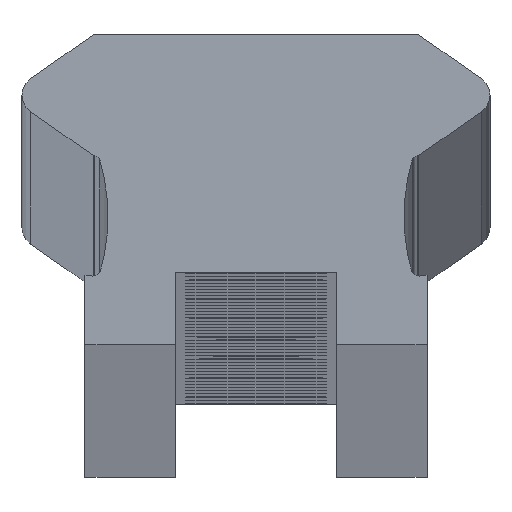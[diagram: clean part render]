
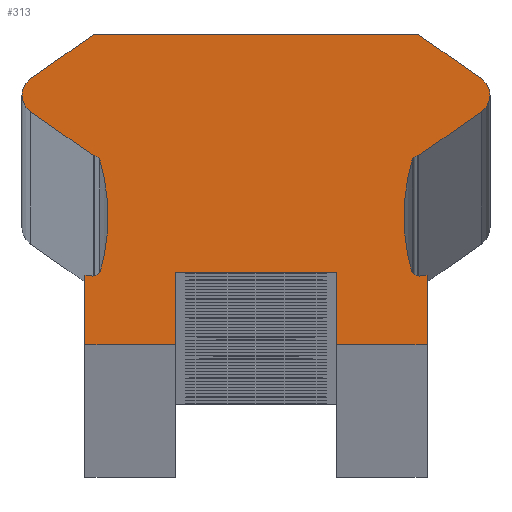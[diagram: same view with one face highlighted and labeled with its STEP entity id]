
A CAD part, top view. The second image highlights one B-rep face of the part: STEP entity #313.
In plain terms, the highlighted planar face has unit normal (0, 0, 1).
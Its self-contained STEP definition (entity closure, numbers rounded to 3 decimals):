
#313=ADVANCED_FACE('',(#918),#919,.T.);
#918=FACE_OUTER_BOUND('',#1524,.T.);
#919=PLANE('',#1525);
#1524=EDGE_LOOP('',(#3362,#3363,#3364,#3365,#3366,#3367,#3368,#3369,#3370,#3371,#3372,#3373,#3374,#3375,#3376,#3377,#3378,#3379,#3380,#3381,#3382,#3383,#3384,#3385,#3386,#3387,#3388,#3389));
#1525=AXIS2_PLACEMENT_3D('',#3390,#3391,#3392);
#3362=ORIENTED_EDGE('',*,*,#3944,.F.);
#3363=ORIENTED_EDGE('',*,*,#4010,.F.);
#3364=ORIENTED_EDGE('',*,*,#4007,.F.);
#3365=ORIENTED_EDGE('',*,*,#4004,.F.);
#3366=ORIENTED_EDGE('',*,*,#3427,.F.);
#3367=ORIENTED_EDGE('',*,*,#4002,.F.);
#3368=ORIENTED_EDGE('',*,*,#3999,.F.);
#3369=ORIENTED_EDGE('',*,*,#3996,.F.);
#3370=ORIENTED_EDGE('',*,*,#3993,.F.);
#3371=ORIENTED_EDGE('',*,*,#3990,.F.);
#3372=ORIENTED_EDGE('',*,*,#3987,.F.);
#3373=ORIENTED_EDGE('',*,*,#3984,.F.);
#3374=ORIENTED_EDGE('',*,*,#3981,.F.);
#3375=ORIENTED_EDGE('',*,*,#3978,.F.);
#3376=ORIENTED_EDGE('',*,*,#3975,.F.);
#3377=ORIENTED_EDGE('',*,*,#3972,.F.);
#3378=ORIENTED_EDGE('',*,*,#3429,.F.);
#3379=ORIENTED_EDGE('',*,*,#3971,.F.);
#3380=ORIENTED_EDGE('',*,*,#3967,.F.);
#3381=ORIENTED_EDGE('',*,*,#3964,.F.);
#3382=ORIENTED_EDGE('',*,*,#3961,.F.);
#3383=ORIENTED_EDGE('',*,*,#3958,.F.);
#3384=ORIENTED_EDGE('',*,*,#3435,.F.);
#3385=ORIENTED_EDGE('',*,*,#3956,.F.);
#3386=ORIENTED_EDGE('',*,*,#3953,.F.);
#3387=ORIENTED_EDGE('',*,*,#3950,.F.);
#3388=ORIENTED_EDGE('',*,*,#3437,.F.);
#3389=ORIENTED_EDGE('',*,*,#3949,.F.);
#3390=CARTESIAN_POINT('',(0.,3.899,1886.0));
#3391=DIRECTION('',(0.0,0.0,1.0));
#3392=DIRECTION('',(1.0,0.0,0.0));
#3427=EDGE_CURVE('',#4017,#4013,#4019,.T.);
#3429=EDGE_CURVE('',#4020,#4023,#4024,.T.);
#3435=EDGE_CURVE('',#4033,#4029,#4035,.T.);
#3437=EDGE_CURVE('',#4036,#4039,#4040,.T.);
#3944=EDGE_CURVE('',#4884,#4885,#4886,.T.);
#3949=EDGE_CURVE('',#4885,#4036,#4893,.T.);
#3950=EDGE_CURVE('',#4039,#4894,#4895,.T.);
#3953=EDGE_CURVE('',#4894,#4899,#4900,.T.);
#3956=EDGE_CURVE('',#4899,#4033,#4904,.T.);
#3958=EDGE_CURVE('',#4029,#4906,#4907,.T.);
#3961=EDGE_CURVE('',#4906,#4911,#4912,.T.);
#3964=EDGE_CURVE('',#4911,#4916,#4917,.T.);
#3967=EDGE_CURVE('',#4916,#4921,#4922,.T.);
#3971=EDGE_CURVE('',#4921,#4020,#4927,.T.);
#3972=EDGE_CURVE('',#4023,#4928,#4929,.T.);
#3975=EDGE_CURVE('',#4928,#4933,#4934,.T.);
#3978=EDGE_CURVE('',#4933,#4938,#4939,.T.);
#3981=EDGE_CURVE('',#4938,#4943,#4944,.T.);
#3984=EDGE_CURVE('',#4943,#4948,#4949,.T.);
#3987=EDGE_CURVE('',#4948,#4953,#4954,.T.);
#3990=EDGE_CURVE('',#4953,#4958,#4959,.T.);
#3993=EDGE_CURVE('',#4958,#4963,#4964,.T.);
#3996=EDGE_CURVE('',#4963,#4968,#4969,.T.);
#3999=EDGE_CURVE('',#4968,#4973,#4974,.T.);
#4002=EDGE_CURVE('',#4973,#4017,#4978,.T.);
#4004=EDGE_CURVE('',#4013,#4980,#4981,.T.);
#4007=EDGE_CURVE('',#4980,#4985,#4986,.T.);
#4010=EDGE_CURVE('',#4985,#4884,#4990,.T.);
#4013=VERTEX_POINT('',#4993);
#4017=VERTEX_POINT('',#4998);
#4019=CIRCLE('',#5001,5.045);
#4020=VERTEX_POINT('',#5002);
#4023=VERTEX_POINT('',#5006);
#4024=CIRCLE('',#5007,5.045);
#4029=VERTEX_POINT('',#5013);
#4033=VERTEX_POINT('',#5018);
#4035=CIRCLE('',#5021,0.5);
#4036=VERTEX_POINT('',#5022);
#4039=VERTEX_POINT('',#5026);
#4040=CIRCLE('',#5027,0.5);
#4884=VERTEX_POINT('',#6040);
#4885=VERTEX_POINT('',#6041);
#4886=LINE('',#6042,#6043);
#4893=CIRCLE('',#6053,0.5);
#4894=VERTEX_POINT('',#6054);
#4895=LINE('',#6055,#6056);
#4899=VERTEX_POINT('',#6062);
#4900=LINE('',#6063,#6064);
#4904=LINE('',#6070,#6071);
#4906=VERTEX_POINT('',#6074);
#4907=CIRCLE('',#6075,0.5);
#4911=VERTEX_POINT('',#6080);
#4912=LINE('',#6081,#6082);
#4916=VERTEX_POINT('',#6088);
#4917=LINE('',#6089,#6090);
#4921=VERTEX_POINT('',#6096);
#4922=CIRCLE('',#6097,0.158);
#4927=CIRCLE('',#6103,5.045);
#4928=VERTEX_POINT('',#6104);
#4929=CIRCLE('',#6105,0.181);
#4933=VERTEX_POINT('',#6110);
#4934=LINE('',#6111,#6112);
#4938=VERTEX_POINT('',#6118);
#4939=LINE('',#6119,#6120);
#4943=VERTEX_POINT('',#6126);
#4944=LINE('',#6127,#6128);
#4948=VERTEX_POINT('',#6134);
#4949=LINE('',#6135,#6136);
#4953=VERTEX_POINT('',#6142);
#4954=LINE('',#6143,#6144);
#4958=VERTEX_POINT('',#6150);
#4959=LINE('',#6151,#6152);
#4963=VERTEX_POINT('',#6158);
#4964=LINE('',#6159,#6160);
#4968=VERTEX_POINT('',#6166);
#4969=LINE('',#6167,#6168);
#4973=VERTEX_POINT('',#6174);
#4974=LINE('',#6175,#6176);
#4978=CIRCLE('',#6182,0.181);
#4980=VERTEX_POINT('',#6184);
#4981=CIRCLE('',#6185,5.045);
#4985=VERTEX_POINT('',#6190);
#4986=CIRCLE('',#6191,0.158);
#4990=LINE('',#6196,#6197);
#4993=CARTESIAN_POINT('',(-3.679,3.182,1886.0));
#4998=CARTESIAN_POINT('',(-3.864,1.827,1886.0));
#5001=AXIS2_PLACEMENT_3D('',#6205,#6206,#6207);
#5002=CARTESIAN_POINT('',(3.679,3.182,1886.0));
#5006=CARTESIAN_POINT('',(3.864,1.827,1886.0));
#5007=AXIS2_PLACEMENT_3D('',#6209,#6210,#6211);
#5013=CARTESIAN_POINT('',(5.813,6.2,1886.0));
#5018=CARTESIAN_POINT('',(5.6,6.61,1886.0));
#5021=AXIS2_PLACEMENT_3D('',#6221,#6222,#6223);
#5022=CARTESIAN_POINT('',(-5.813,6.2,1886.0));
#5026=CARTESIAN_POINT('',(-5.6,6.61,1886.0));
#5027=AXIS2_PLACEMENT_3D('',#6225,#6226,#6227);
#6040=CARTESIAN_POINT('',(-4.043,4.7,1886.0));
#6041=CARTESIAN_POINT('',(-5.6,5.79,1886.0));
#6042=CARTESIAN_POINT('',(-5.6,5.79,1886.0));
#6043=VECTOR('',#7408,1.0);
#6053=AXIS2_PLACEMENT_3D('',#7415,#7416,#7417);
#6054=CARTESIAN_POINT('',(-4.043,7.7,1886.0));
#6055=CARTESIAN_POINT('',(-4.043,7.7,1886.0));
#6056=VECTOR('',#7418,1.0);
#6062=CARTESIAN_POINT('',(4.043,7.7,1886.0));
#6063=CARTESIAN_POINT('',(4.043,7.7,1886.0));
#6064=VECTOR('',#7421,1.0);
#6070=CARTESIAN_POINT('',(5.6,6.61,1886.0));
#6071=VECTOR('',#7424,1.0);
#6074=CARTESIAN_POINT('',(5.6,5.79,1886.0));
#6075=AXIS2_PLACEMENT_3D('',#7426,#7427,#7428);
#6080=CARTESIAN_POINT('',(4.043,4.7,1886.0));
#6081=CARTESIAN_POINT('',(4.043,4.7,1886.0));
#6082=VECTOR('',#7433,1.0);
#6088=CARTESIAN_POINT('',(4.0,4.7,1886.0));
#6089=CARTESIAN_POINT('',(4.0,4.7,1886.0));
#6090=VECTOR('',#7436,1.0);
#6096=CARTESIAN_POINT('',(3.887,4.617,1886.0));
#6097=AXIS2_PLACEMENT_3D('',#7439,#7440,#7441);
#6103=AXIS2_PLACEMENT_3D('',#7449,#7450,#7451);
#6104=CARTESIAN_POINT('',(4.058,1.705,1886.0));
#6105=AXIS2_PLACEMENT_3D('',#7452,#7453,#7454);
#6110=CARTESIAN_POINT('',(4.25,1.722,1886.0));
#6111=CARTESIAN_POINT('',(4.25,1.722,1886.0));
#6112=VECTOR('',#7459,1.0);
#6118=CARTESIAN_POINT('',(4.25,0.0,1886.0));
#6119=CARTESIAN_POINT('',(4.25,0.0,1886.0));
#6120=VECTOR('',#7462,1.0);
#6126=CARTESIAN_POINT('',(2.0,0.0,1886.0));
#6127=CARTESIAN_POINT('',(2.0,0.0,1886.0));
#6128=VECTOR('',#7465,1.0);
#6134=CARTESIAN_POINT('',(2.0,1.8,1886.0));
#6135=CARTESIAN_POINT('',(2.0,1.8,1886.0));
#6136=VECTOR('',#7468,1.0);
#6142=CARTESIAN_POINT('',(-2.0,1.8,1886.0));
#6143=CARTESIAN_POINT('',(-2.0,1.8,1886.0));
#6144=VECTOR('',#7471,1.0);
#6150=CARTESIAN_POINT('',(-2.0,0.0,1886.0));
#6151=CARTESIAN_POINT('',(-2.0,0.0,1886.0));
#6152=VECTOR('',#7474,1.0);
#6158=CARTESIAN_POINT('',(-4.25,0.0,1886.0));
#6159=CARTESIAN_POINT('',(-4.25,0.0,1886.0));
#6160=VECTOR('',#7477,1.0);
#6166=CARTESIAN_POINT('',(-4.25,1.722,1886.0));
#6167=CARTESIAN_POINT('',(-4.25,1.722,1886.0));
#6168=VECTOR('',#7480,1.0);
#6174=CARTESIAN_POINT('',(-4.058,1.705,1886.0));
#6175=CARTESIAN_POINT('',(-4.25,1.722,1886.0));
#6176=VECTOR('',#7483,1.0);
#6182=AXIS2_PLACEMENT_3D('',#7486,#7487,#7488);
#6184=CARTESIAN_POINT('',(-3.887,4.617,1886.0));
#6185=AXIS2_PLACEMENT_3D('',#7492,#7493,#7494);
#6190=CARTESIAN_POINT('',(-4.0,4.7,1886.0));
#6191=AXIS2_PLACEMENT_3D('',#7499,#7500,#7501);
#6196=CARTESIAN_POINT('',(-4.0,4.7,1886.0));
#6197=VECTOR('',#7506,1.0);
#6205=CARTESIAN_POINT('',(-8.724,3.182,1886.0));
#6206=DIRECTION('',(0.0,0.0,1.0));
#6207=DIRECTION('',(1.0,0.0,0.0));
#6209=CARTESIAN_POINT('',(8.724,3.182,1886.0));
#6210=DIRECTION('',(0.0,0.0,1.0));
#6211=DIRECTION('',(1.0,0.0,0.0));
#6221=CARTESIAN_POINT('',(5.313,6.2,1886.0));
#6222=DIRECTION('',(0.0,0.0,-1.0));
#6223=DIRECTION('',(1.0,0.0,0.0));
#6225=CARTESIAN_POINT('',(-5.313,6.2,1886.0));
#6226=DIRECTION('',(0.0,0.0,-1.0));
#6227=DIRECTION('',(1.0,0.0,0.0));
#7408=DIRECTION('',(-0.819,0.574,0.0));
#7415=CARTESIAN_POINT('',(-5.313,6.2,1886.0));
#7416=DIRECTION('',(0.0,0.0,-1.0));
#7417=DIRECTION('',(1.0,0.0,0.0));
#7418=DIRECTION('',(0.819,0.574,0.0));
#7421=DIRECTION('',(1.0,0.0,0.0));
#7424=DIRECTION('',(0.819,-0.574,0.0));
#7426=CARTESIAN_POINT('',(5.313,6.2,1886.0));
#7427=DIRECTION('',(0.0,0.0,-1.0));
#7428=DIRECTION('',(1.0,0.0,0.0));
#7433=DIRECTION('',(-0.819,-0.574,-0.0));
#7436=DIRECTION('',(-1.0,-0.0,-0.0));
#7439=CARTESIAN_POINT('',(4.028,4.544,1886.0));
#7440=DIRECTION('',(0.0,0.0,1.0));
#7441=DIRECTION('',(1.0,0.0,0.0));
#7449=CARTESIAN_POINT('',(8.724,3.182,1886.0));
#7450=DIRECTION('',(0.0,0.0,1.0));
#7451=DIRECTION('',(1.0,0.0,0.0));
#7452=CARTESIAN_POINT('',(4.036,1.885,1886.0));
#7453=DIRECTION('',(0.0,0.0,1.0));
#7454=DIRECTION('',(1.0,0.0,0.0));
#7459=DIRECTION('',(0.996,0.087,0.0));
#7462=DIRECTION('',(-0.0,-1.0,-0.0));
#7465=DIRECTION('',(-1.0,-0.0,-0.0));
#7468=DIRECTION('',(0.,1.0,0.0));
#7471=DIRECTION('',(-1.0,-0.0,-0.0));
#7474=DIRECTION('',(0.,-1.0,-0.0));
#7477=DIRECTION('',(-1.0,-0.0,-0.0));
#7480=DIRECTION('',(0.,1.0,0.0));
#7483=DIRECTION('',(0.996,-0.087,0.0));
#7486=CARTESIAN_POINT('',(-4.036,1.885,1886.0));
#7487=DIRECTION('',(0.0,0.0,1.0));
#7488=DIRECTION('',(1.0,0.0,0.0));
#7492=CARTESIAN_POINT('',(-8.724,3.182,1886.0));
#7493=DIRECTION('',(0.0,0.0,1.0));
#7494=DIRECTION('',(1.0,0.0,0.0));
#7499=CARTESIAN_POINT('',(-4.028,4.544,1886.0));
#7500=DIRECTION('',(0.0,0.0,1.0));
#7501=DIRECTION('',(1.0,0.0,0.0));
#7506=DIRECTION('',(-1.0,0.0,0.0));
